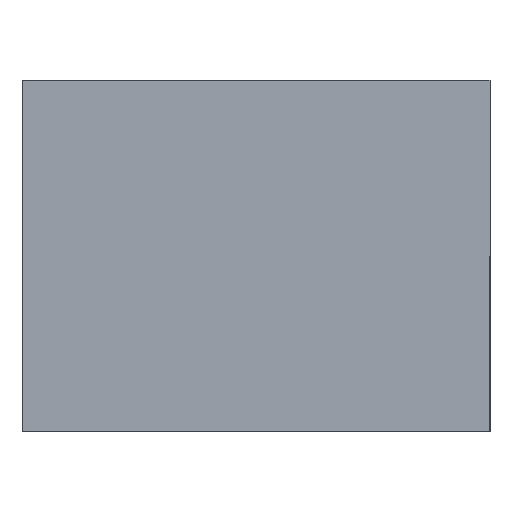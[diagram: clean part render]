
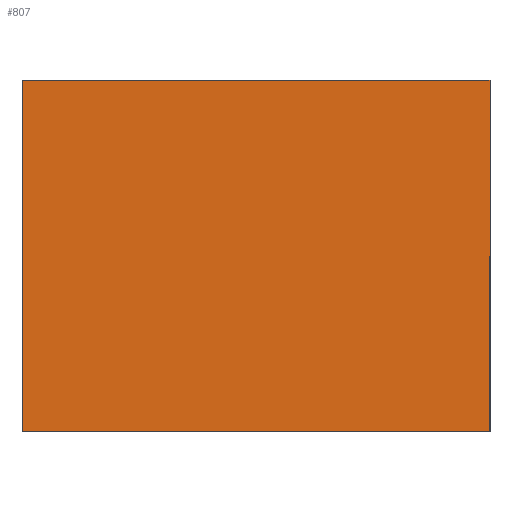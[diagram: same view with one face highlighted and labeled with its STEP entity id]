
A CAD part, front view. The second image highlights one B-rep face of the part: STEP entity #807.
In plain terms, the highlighted planar face has unit normal (0, -1, 0).
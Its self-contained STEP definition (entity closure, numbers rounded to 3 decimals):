
#65 = EDGE_LOOP ( 'NONE', ( #1641, #1218, #876, #198 ) ) ;
#198 = ORIENTED_EDGE ( 'NONE', *, *, #1277, .F. ) ;
#395 = DIRECTION ( 'NONE',  ( 0., 0., 1. ) ) ;
#461 = CARTESIAN_POINT ( 'NONE',  ( -50., 0., -37.5 ) ) ;
#520 = VERTEX_POINT ( 'NONE', #1818 ) ;
#554 = LINE ( 'NONE', #943, #2002 ) ;
#605 = CARTESIAN_POINT ( 'NONE',  ( 0., 0., 0. ) ) ;
#653 = PLANE ( 'NONE',  #906 ) ;
#674 = DIRECTION ( 'NONE',  ( 0., 1., 0. ) ) ;
#676 = DIRECTION ( 'NONE',  ( 0., 0., 1. ) ) ;
#807 = ADVANCED_FACE ( 'NONE', ( #2394 ), #653, .F. ) ;
#876 = ORIENTED_EDGE ( 'NONE', *, *, #1946, .F. ) ;
#906 = AXIS2_PLACEMENT_3D ( 'NONE', #605, #674, #676 ) ;
#943 = CARTESIAN_POINT ( 'NONE',  ( -50., 0., -37.5 ) ) ;
#946 = DIRECTION ( 'NONE',  ( -1., 0., 0. ) ) ;
#950 = CARTESIAN_POINT ( 'NONE',  ( -50., 0., 37.5 ) ) ;
#972 = EDGE_CURVE ( 'NONE', #1299, #1778, #1289, .T. ) ;
#1046 = VERTEX_POINT ( 'NONE', #2142 ) ;
#1218 = ORIENTED_EDGE ( 'NONE', *, *, #972, .F. ) ;
#1277 = EDGE_CURVE ( 'NONE', #520, #1046, #554, .T. ) ;
#1289 = LINE ( 'NONE', #1867, #2349 ) ;
#1299 = VERTEX_POINT ( 'NONE', #950 ) ;
#1636 = LINE ( 'NONE', #2102, #2170 ) ;
#1641 = ORIENTED_EDGE ( 'NONE', *, *, #1732, .F. ) ;
#1732 = EDGE_CURVE ( 'NONE', #1778, #520, #1636, .T. ) ;
#1778 = VERTEX_POINT ( 'NONE', #2253 ) ;
#1818 = CARTESIAN_POINT ( 'NONE',  ( 50., 0., -37.5 ) ) ;
#1851 = LINE ( 'NONE', #461, #2250 ) ;
#1867 = CARTESIAN_POINT ( 'NONE',  ( -50., 0., 37.5 ) ) ;
#1876 = DIRECTION ( 'NONE',  ( 1., 0., 0. ) ) ;
#1946 = EDGE_CURVE ( 'NONE', #1046, #1299, #1851, .T. ) ;
#2002 = VECTOR ( 'NONE', #946, 1000. ) ;
#2102 = CARTESIAN_POINT ( 'NONE',  ( 50., 0., -37.5 ) ) ;
#2131 = DIRECTION ( 'NONE',  ( 0., 0., -1. ) ) ;
#2142 = CARTESIAN_POINT ( 'NONE',  ( -50., 0., -37.5 ) ) ;
#2170 = VECTOR ( 'NONE', #2131, 1000. ) ;
#2250 = VECTOR ( 'NONE', #395, 1000. ) ;
#2253 = CARTESIAN_POINT ( 'NONE',  ( 50., 0., 37.5 ) ) ;
#2349 = VECTOR ( 'NONE', #1876, 1000. ) ;
#2394 = FACE_OUTER_BOUND ( 'NONE', #65, .T. ) ;
